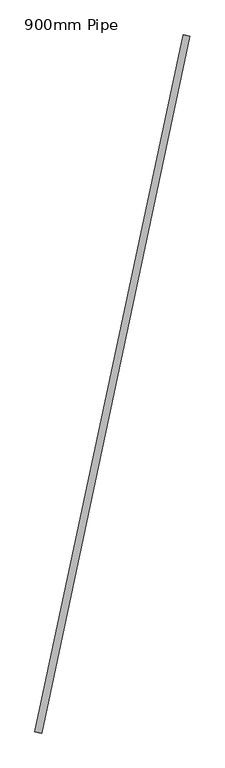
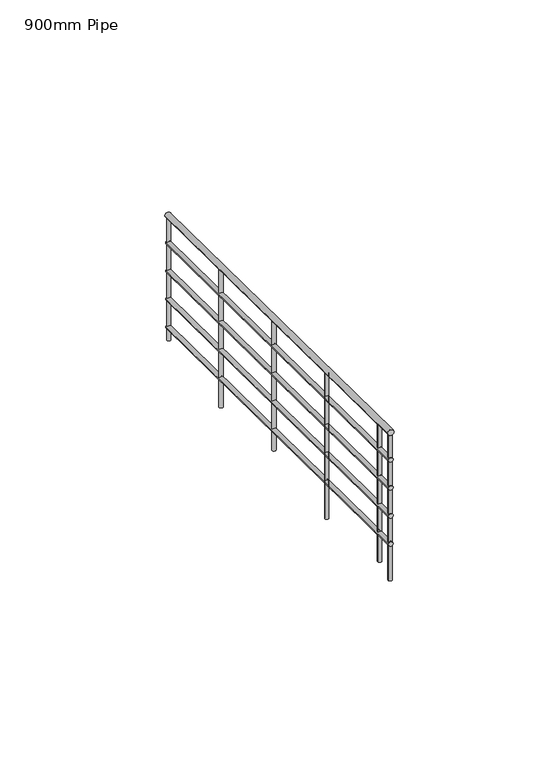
"""IFC4 building model written with IfcOpenShell, lengths in millimetres: railing geometry, 900mm Pipe."""

from ifc_helpers import new_model, si_unit, frame, origin, place, context, project, spatial, circle_curve, ellipse_curve, source, transform, mapped, element, save
from ifc_brep_helpers import plane_surface, cylinder_surface, advanced_brep


def railing_900mm_pipe_92d42454(model_context):
    return source(origin(), model_context, "Body", "AdvancedBrep", [
        advanced_brep(
        [(969290.0041335, 43215.1762571, 6058.4247801), (969250.8806435, 43223.5040741, 6058.4247801), (968413.2612678, 39096.3008532, 7313.4836036), (968374.1377779, 39104.6286702, 7313.4836036)],
        [
            (0, 1, ellipse_curve(frame((969270.4423885, 43219.3401656, 6058.4247801), z_axis=(0.2081954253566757, 0.9780872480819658, 0.0), x_axis=(0.0, 0.0, -1.0)), 20.8693376, 20.0)),
            (1, 0, ellipse_curve(frame((969270.4423885, 43219.3401656, 6058.4247801), z_axis=(0.2081954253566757, 0.9780872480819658, 0.0), x_axis=(0.0, 0.0, -1.0)), 20.8693376, 20.0)),
            (2, 3, ellipse_curve(frame((968393.6995229, 39100.4647617, 7313.4836036), z_axis=(-0.2081954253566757, -0.9780872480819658, 0.0), x_axis=(0.0, 0.0, -1.0)), 20.8693376, 20.0)),
            (3, 2, ellipse_curve(frame((968393.6995229, 39100.4647617, 7313.4836036), z_axis=(-0.2081954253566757, -0.9780872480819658, 0.0), x_axis=(0.0, 0.0, -1.0)), 20.8693376, 20.0)),
            (0, 2),
            (3, 1),
        ],
        [
            plane_surface(frame((969270.4423885, 43219.3401656, 6079.2941176), z_axis=(0.2081954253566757, 0.9780872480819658, 0.0), x_axis=(0.9780872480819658, -0.2081954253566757, 0.0))),
            plane_surface(frame((968393.6995229, 39100.4647617, 7334.3529412), z_axis=(-0.2081954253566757, -0.9780872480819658, 0.0), x_axis=(0.9780872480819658, -0.2081954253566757, 0.0))),
            cylinder_surface(frame((969269.2531046, 43213.7529948, 6060.1272419), z_axis=(0.19952279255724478, 0.937343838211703, -0.285617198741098), x_axis=(-0.9780872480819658, 0.20819542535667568, 0.0)), 20.0),
        ],
        [
            (0, [[1, 2]]),
            (1, [[3, 4]]),
            (2, [[-1, 5, -4, 6]]),
            (2, [[-2, -6, -3, -5]]),
        ],
    ),
        advanced_brep(
        [(969285.1136972, 43216.2172342, 5863.6421145), (969255.7710798, 43222.463097, 5863.6421145), (968408.3708316, 39097.3418303, 7118.700938), (968379.0282142, 39103.5876931, 7118.700938)],
        [
            (0, 1, ellipse_curve(frame((969270.4423885, 43219.3401656, 5863.6421145), z_axis=(0.2081954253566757, 0.9780872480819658, 0.0), x_axis=(0.0, 0.0, -1.0)), 15.6520032, 15.0)),
            (1, 0, ellipse_curve(frame((969270.4423885, 43219.3401656, 5863.6421145), z_axis=(0.2081954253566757, 0.9780872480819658, 0.0), x_axis=(0.0, 0.0, -1.0)), 15.6520032, 15.0)),
            (2, 3, ellipse_curve(frame((968393.6995229, 39100.4647617, 7118.700938), z_axis=(-0.2081954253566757, -0.9780872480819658, 0.0), x_axis=(0.0, 0.0, -1.0)), 15.6520032, 15.0)),
            (3, 2, ellipse_curve(frame((968393.6995229, 39100.4647617, 7118.700938), z_axis=(-0.2081954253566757, -0.9780872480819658, 0.0), x_axis=(0.0, 0.0, -1.0)), 15.6520032, 15.0)),
            (0, 2),
            (3, 1),
        ],
        [
            plane_surface(frame((969270.4423885, 43219.3401656, 5879.2941176), z_axis=(0.2081954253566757, 0.9780872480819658, 0.0), x_axis=(0.9780872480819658, -0.2081954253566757, 0.0))),
            plane_surface(frame((968393.6995229, 39100.4647617, 7134.3529412), z_axis=(-0.2081954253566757, -0.9780872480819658, 0.0), x_axis=(0.9780872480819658, -0.2081954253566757, 0.0))),
            cylinder_surface(frame((969269.5504256, 43215.1497875, 5864.9189608), z_axis=(0.19952279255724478, 0.937343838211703, -0.285617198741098), x_axis=(-0.9780872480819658, 0.20819542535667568, 0.0)), 15.0),
        ],
        [
            (0, [[1, 2]]),
            (1, [[3, 4]]),
            (2, [[-1, 5, -4, 6]]),
            (2, [[-2, -6, -3, -5]]),
        ],
    ),
        advanced_brep(
        [(969285.1136972, 43216.2172342, 5663.6421145), (969255.7710798, 43222.463097, 5663.6421145), (968408.3708316, 39097.3418303, 6918.700938), (968379.0282142, 39103.5876931, 6918.700938)],
        [
            (0, 1, ellipse_curve(frame((969270.4423885, 43219.3401656, 5663.6421145), z_axis=(0.2081954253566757, 0.9780872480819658, 0.0), x_axis=(0.0, 0.0, -1.0)), 15.6520032, 15.0)),
            (1, 0, ellipse_curve(frame((969270.4423885, 43219.3401656, 5663.6421145), z_axis=(0.2081954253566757, 0.9780872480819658, 0.0), x_axis=(0.0, 0.0, -1.0)), 15.6520032, 15.0)),
            (2, 3, ellipse_curve(frame((968393.6995229, 39100.4647617, 6918.700938), z_axis=(-0.2081954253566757, -0.9780872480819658, 0.0), x_axis=(0.0, 0.0, -1.0)), 15.6520032, 15.0)),
            (3, 2, ellipse_curve(frame((968393.6995229, 39100.4647617, 6918.700938), z_axis=(-0.2081954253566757, -0.9780872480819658, 0.0), x_axis=(0.0, 0.0, -1.0)), 15.6520032, 15.0)),
            (0, 2),
            (3, 1),
        ],
        [
            plane_surface(frame((969270.4423885, 43219.3401656, 5679.2941176), z_axis=(0.2081954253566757, 0.9780872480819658, 0.0), x_axis=(0.9780872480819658, -0.2081954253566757, 0.0))),
            plane_surface(frame((968393.6995229, 39100.4647617, 6934.3529412), z_axis=(-0.2081954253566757, -0.9780872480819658, 0.0), x_axis=(0.9780872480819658, -0.2081954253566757, 0.0))),
            cylinder_surface(frame((969269.5504256, 43215.1497875, 5664.9189608), z_axis=(0.19952279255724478, 0.937343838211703, -0.285617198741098), x_axis=(-0.9780872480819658, 0.20819542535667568, 0.0)), 15.0),
        ],
        [
            (0, [[1, 2]]),
            (1, [[3, 4]]),
            (2, [[-1, 5, -4, 6]]),
            (2, [[-2, -6, -3, -5]]),
        ],
    ),
        advanced_brep(
        [(969285.1136972, 43216.2172342, 5463.6421145), (969255.7710798, 43222.463097, 5463.6421145), (968408.3708316, 39097.3418303, 6718.700938), (968379.0282142, 39103.5876931, 6718.700938)],
        [
            (0, 1, ellipse_curve(frame((969270.4423885, 43219.3401656, 5463.6421145), z_axis=(0.2081954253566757, 0.9780872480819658, 0.0), x_axis=(0.0, 0.0, -1.0)), 15.6520032, 15.0)),
            (1, 0, ellipse_curve(frame((969270.4423885, 43219.3401656, 5463.6421145), z_axis=(0.2081954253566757, 0.9780872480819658, 0.0), x_axis=(0.0, 0.0, -1.0)), 15.6520032, 15.0)),
            (2, 3, ellipse_curve(frame((968393.6995229, 39100.4647617, 6718.700938), z_axis=(-0.2081954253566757, -0.9780872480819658, 0.0), x_axis=(0.0, 0.0, -1.0)), 15.6520032, 15.0)),
            (3, 2, ellipse_curve(frame((968393.6995229, 39100.4647617, 6718.700938), z_axis=(-0.2081954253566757, -0.9780872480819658, 0.0), x_axis=(0.0, 0.0, -1.0)), 15.6520032, 15.0)),
            (0, 2),
            (3, 1),
        ],
        [
            plane_surface(frame((969270.4423885, 43219.3401656, 5479.2941176), z_axis=(0.2081954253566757, 0.9780872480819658, 0.0), x_axis=(0.9780872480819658, -0.2081954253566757, 0.0))),
            plane_surface(frame((968393.6995229, 39100.4647617, 6734.3529412), z_axis=(-0.2081954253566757, -0.9780872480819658, 0.0), x_axis=(0.9780872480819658, -0.2081954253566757, 0.0))),
            cylinder_surface(frame((969269.5504256, 43215.1497875, 5464.9189608), z_axis=(0.19952279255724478, 0.937343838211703, -0.285617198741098), x_axis=(-0.9780872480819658, 0.20819542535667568, 0.0)), 15.0),
        ],
        [
            (0, [[1, 2]]),
            (1, [[3, 4]]),
            (2, [[-1, 5, -4, 6]]),
            (2, [[-2, -6, -3, -5]]),
        ],
    ),
        advanced_brep(
        [(969285.1136972, 43216.2172342, 5263.6421145), (969255.7710798, 43222.463097, 5263.6421145), (968408.3708316, 39097.3418303, 6518.700938), (968379.0282142, 39103.5876931, 6518.700938)],
        [
            (0, 1, ellipse_curve(frame((969270.4423885, 43219.3401656, 5263.6421145), z_axis=(0.2081954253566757, 0.9780872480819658, 0.0), x_axis=(0.0, 0.0, -1.0)), 15.6520032, 15.0)),
            (1, 0, ellipse_curve(frame((969270.4423885, 43219.3401656, 5263.6421145), z_axis=(0.2081954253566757, 0.9780872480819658, 0.0), x_axis=(0.0, 0.0, -1.0)), 15.6520032, 15.0)),
            (2, 3, ellipse_curve(frame((968393.6995229, 39100.4647617, 6518.700938), z_axis=(-0.2081954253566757, -0.9780872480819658, 0.0), x_axis=(0.0, 0.0, -1.0)), 15.6520032, 15.0)),
            (3, 2, ellipse_curve(frame((968393.6995229, 39100.4647617, 6518.700938), z_axis=(-0.2081954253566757, -0.9780872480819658, 0.0), x_axis=(0.0, 0.0, -1.0)), 15.6520032, 15.0)),
            (0, 2),
            (3, 1),
        ],
        [
            plane_surface(frame((969270.4423885, 43219.3401656, 5279.2941176), z_axis=(0.2081954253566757, 0.9780872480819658, 0.0), x_axis=(0.9780872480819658, -0.2081954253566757, 0.0))),
            plane_surface(frame((968393.6995229, 39100.4647617, 6534.3529412), z_axis=(-0.2081954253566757, -0.9780872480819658, 0.0), x_axis=(0.9780872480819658, -0.2081954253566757, 0.0))),
            cylinder_surface(frame((969269.5504256, 43215.1497875, 5264.9189608), z_axis=(0.19952279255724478, 0.937343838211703, -0.285617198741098), x_axis=(-0.9780872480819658, 0.20819542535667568, 0.0)), 15.0),
        ],
        [
            (0, [[1, 2]]),
            (1, [[3, 4]]),
            (2, [[-1, 5, -4, 6]]),
            (2, [[-2, -6, -3, -5]]),
        ],
    ),
        advanced_brep(
        [(968425.4345965, 39309.5936161, 7229.6837888), (968425.4345965, 39309.5936161, 6255.0588235), (968449.8867777, 39304.3887305, 6255.0588235), (968449.8867777, 39304.3887305, 7229.6837888)],
        [
            (0, 1),
            (1, 2, circle_curve(frame((968437.6606871, 39306.9911733, 6255.0588235), z_axis=(0.0, 0.0, 1.0), x_axis=(0.9780872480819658, -0.20819542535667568, 0.0)), 12.5)),
            (2, 3),
            (3, 0, ellipse_curve(frame((968437.6606871, 39306.9911733, 7229.6837888), z_axis=(-0.059464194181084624, -0.27935853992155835, -0.9583437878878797), x_axis=(-0.1995227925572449, -0.9373438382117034, 0.2856171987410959)), 13.043336, 12.5)),
            (0, 3, ellipse_curve(frame((968437.6606871, 39306.9911733, 7229.6837888), z_axis=(-0.059464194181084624, -0.27935853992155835, -0.9583437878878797), x_axis=(-0.1995227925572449, -0.9373438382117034, 0.2856171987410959)), 13.043336, 12.5)),
            (2, 1, circle_curve(frame((968437.6606871, 39306.9911733, 6255.0588235), z_axis=(0.0, 0.0, 1.0), x_axis=(0.9780872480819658, -0.20819542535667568, 0.0)), 12.5)),
        ],
        [
            cylinder_surface(frame((968437.6606871, 39306.9911733, 6155.0588235), z_axis=(0.0, 0.0, 1.0), x_axis=(0.9780872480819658, -0.20819542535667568, 0.0)), 12.5),
            plane_surface(frame((968456.9079826, 39277.3341064, 7237.1345909), z_axis=(0.059464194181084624, 0.27935853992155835, 0.9583437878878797), x_axis=(-0.9780872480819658, 0.20819542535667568, 0.0))),
            plane_surface(frame((968467.3177539, 39326.2384688, 6255.0588235), z_axis=(0.0, 0.0, -1.0), x_axis=(-0.9780872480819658, 0.20819542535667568, 0.0))),
        ],
        [
            (0, [[1, 2, 3, 4]]),
            (0, [[-1, 5, -3, 6]]),
            (1, [[-4, -5]]),
            (2, [[-2, -6]]),
        ],
    ),
        advanced_brep(
        [(968633.6300218, 40287.6808642, 6931.6517022), (968633.6300218, 40287.6808642, 5896.4705882), (968658.082203, 40282.4759785, 5896.4705882), (968658.082203, 40282.4759785, 6931.6517022)],
        [
            (0, 1),
            (1, 2, circle_curve(frame((968645.8561124, 40285.0784214, 5896.4705882), z_axis=(0.0, 0.0, 1.0), x_axis=(0.9780872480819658, -0.20819542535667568, 0.0)), 12.5)),
            (2, 3),
            (3, 0, ellipse_curve(frame((968645.8561124, 40285.0784214, 6931.6517022), z_axis=(-0.059464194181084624, -0.27935853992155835, -0.9583437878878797), x_axis=(-0.1995227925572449, -0.9373438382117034, 0.2856171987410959)), 13.043336, 12.5)),
            (0, 3, ellipse_curve(frame((968645.8561124, 40285.0784214, 6931.6517022), z_axis=(-0.059464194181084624, -0.27935853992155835, -0.9583437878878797), x_axis=(-0.1995227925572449, -0.9373438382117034, 0.2856171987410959)), 13.043336, 12.5)),
            (2, 1, circle_curve(frame((968645.8561124, 40285.0784214, 5896.4705882), z_axis=(0.0, 0.0, 1.0), x_axis=(0.9780872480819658, -0.20819542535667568, 0.0)), 12.5)),
        ],
        [
            cylinder_surface(frame((968645.8561124, 40285.0784214, 5796.4705882), z_axis=(0.0, 0.0, 1.0), x_axis=(0.9780872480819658, -0.20819542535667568, 0.0)), 12.5),
            plane_surface(frame((968665.103408, 40255.4213545, 6939.1025044), z_axis=(0.059464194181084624, 0.27935853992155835, 0.9583437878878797), x_axis=(-0.9780872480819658, 0.20819542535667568, 0.0))),
            plane_surface(frame((968675.5131793, 40304.3257169, 5896.4705882), z_axis=(0.0, 0.0, -1.0), x_axis=(-0.9780872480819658, 0.20819542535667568, 0.0))),
        ],
        [
            (0, [[1, 2, 3, 4]]),
            (0, [[-1, 5, -3, 6]]),
            (1, [[-4, -5]]),
            (2, [[-2, -6]]),
        ],
    ),
        advanced_brep(
        [(968841.8254472, 41265.7681123, 6633.6196157), (968841.8254472, 41265.7681123, 5717.1764706), (968866.2776284, 41260.5632266, 5717.1764706), (968866.2776284, 41260.5632266, 6633.6196157)],
        [
            (0, 1),
            (1, 2, circle_curve(frame((968854.0515378, 41263.1656694, 5717.1764706), z_axis=(0.0, 0.0, 1.0), x_axis=(0.9780872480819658, -0.20819542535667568, 0.0)), 12.5)),
            (2, 3),
            (3, 0, ellipse_curve(frame((968854.0515378, 41263.1656694, 6633.6196157), z_axis=(-0.059464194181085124, -0.2793585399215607, -0.9583437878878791), x_axis=(-0.19952279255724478, -0.937343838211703, 0.2856171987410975)), 13.043336, 12.5)),
            (0, 3, ellipse_curve(frame((968854.0515378, 41263.1656694, 6633.6196157), z_axis=(-0.059464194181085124, -0.2793585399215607, -0.9583437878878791), x_axis=(-0.19952279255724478, -0.937343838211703, 0.2856171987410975)), 13.043336, 12.5)),
            (2, 1, circle_curve(frame((968854.0515378, 41263.1656694, 5717.1764706), z_axis=(0.0, 0.0, 1.0), x_axis=(0.9780872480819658, -0.20819542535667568, 0.0)), 12.5)),
        ],
        [
            cylinder_surface(frame((968854.0515378, 41263.1656694, 5617.1764706), z_axis=(0.0, 0.0, 1.0), x_axis=(0.9780872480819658, -0.20819542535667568, 0.0)), 12.5),
            plane_surface(frame((968873.2988333, 41233.5086026, 6641.0704178), z_axis=(0.059464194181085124, 0.2793585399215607, 0.9583437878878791), x_axis=(-0.9780872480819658, 0.20819542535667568, 0.0))),
            plane_surface(frame((968883.7086046, 41282.412965, 5717.1764706), z_axis=(0.0, 0.0, -1.0), x_axis=(-0.9780872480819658, 0.20819542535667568, 0.0))),
        ],
        [
            (0, [[1, 2, 3, 4]]),
            (0, [[-1, 5, -3, 6]]),
            (1, [[-4, -5]]),
            (2, [[-2, -6]]),
        ],
    ),
        advanced_brep(
        [(969050.0208725, 42243.8553603, 6335.5875291), (969050.0208725, 42243.8553603, 5358.5882353), (969074.4730537, 42238.6504747, 5358.5882353), (969074.4730537, 42238.6504747, 6335.5875291)],
        [
            (0, 1),
            (1, 2, circle_curve(frame((969062.2469631, 42241.2529175, 5358.5882353), z_axis=(0.0, 0.0, 1.0), x_axis=(0.9780872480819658, -0.20819542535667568, 0.0)), 12.5)),
            (2, 3),
            (3, 0, ellipse_curve(frame((969062.2469631, 42241.2529175, 6335.5875291), z_axis=(-0.059464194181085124, -0.2793585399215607, -0.9583437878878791), x_axis=(-0.19952279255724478, -0.937343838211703, 0.2856171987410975)), 13.043336, 12.5)),
            (0, 3, ellipse_curve(frame((969062.2469631, 42241.2529175, 6335.5875291), z_axis=(-0.059464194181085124, -0.2793585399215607, -0.9583437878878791), x_axis=(-0.19952279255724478, -0.937343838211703, 0.2856171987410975)), 13.043336, 12.5)),
            (2, 1, circle_curve(frame((969062.2469631, 42241.2529175, 5358.5882353), z_axis=(0.0, 0.0, 1.0), x_axis=(0.9780872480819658, -0.20819542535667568, 0.0)), 12.5)),
        ],
        [
            cylinder_surface(frame((969062.2469631, 42241.2529175, 5258.5882353), z_axis=(0.0, 0.0, 1.0), x_axis=(0.9780872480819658, -0.20819542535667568, 0.0)), 12.5),
            plane_surface(frame((969081.4942587, 42211.5958507, 6343.0383313), z_axis=(0.059464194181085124, 0.2793585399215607, 0.9583437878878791), x_axis=(-0.9780872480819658, 0.20819542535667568, 0.0))),
            plane_surface(frame((969091.90403, 42260.5002131, 5358.5882353), z_axis=(0.0, 0.0, -1.0), x_axis=(-0.9780872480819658, 0.20819542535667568, 0.0))),
        ],
        [
            (0, [[1, 2, 3, 4]]),
            (0, [[-1, 5, -3, 6]]),
            (1, [[-4, -5]]),
            (2, [[-2, -6]]),
        ],
    ),
        advanced_brep(
        [(968384.0758751, 39115.2932951, 7288.888865), (968384.0758751, 39115.2932951, 6255.0588235), (968408.5280563, 39110.0884095, 6255.0588235), (968408.5280563, 39110.0884095, 7288.888865)],
        [
            (0, 1),
            (1, 2, circle_curve(frame((968396.3019657, 39112.6908523, 6255.0588235), z_axis=(0.0, 0.0, 1.0), x_axis=(0.9780872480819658, -0.20819542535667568, 0.0)), 12.5)),
            (2, 3),
            (3, 0, ellipse_curve(frame((968396.3019657, 39112.6908523, 7288.888865), z_axis=(-0.059464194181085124, -0.2793585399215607, -0.9583437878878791), x_axis=(-0.19952279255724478, -0.937343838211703, 0.2856171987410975)), 13.043336, 12.5)),
            (0, 3, ellipse_curve(frame((968396.3019657, 39112.6908523, 7288.888865), z_axis=(-0.059464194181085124, -0.2793585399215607, -0.9583437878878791), x_axis=(-0.19952279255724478, -0.937343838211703, 0.2856171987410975)), 13.043336, 12.5)),
            (2, 1, circle_curve(frame((968396.3019657, 39112.6908523, 6255.0588235), z_axis=(0.0, 0.0, 1.0), x_axis=(0.9780872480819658, -0.20819542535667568, 0.0)), 12.5)),
        ],
        [
            cylinder_surface(frame((968396.3019657, 39112.6908523, 6155.0588235), z_axis=(0.0, 0.0, 1.0), x_axis=(0.9780872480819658, -0.20819542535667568, 0.0)), 12.5),
            plane_surface(frame((968415.5492613, 39083.0337855, 7296.3396672), z_axis=(0.059464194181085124, 0.2793585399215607, 0.9583437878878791), x_axis=(-0.9780872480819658, 0.20819542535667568, 0.0))),
            plane_surface(frame((968425.9590325, 39131.9381479, 6255.0588235), z_axis=(0.0, 0.0, -1.0), x_axis=(-0.9780872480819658, 0.20819542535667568, 0.0))),
        ],
        [
            (0, [[1, 2, 3, 4]]),
            (0, [[-1, 5, -3, 6]]),
            (1, [[-4, -5]]),
            (2, [[-2, -6]]),
        ],
    ),
        advanced_brep(
        [(969255.6138551, 43209.7165178, 6041.2808436), (969255.6138551, 43209.7165178, 5179.2941176), (969280.0660363, 43204.5116322, 5179.2941176), (969280.0660363, 43204.5116322, 6041.2808436)],
        [
            (0, 1),
            (1, 2, circle_curve(frame((969267.8399457, 43207.114075, 5179.2941176), z_axis=(0.0, 0.0, 1.0), x_axis=(0.9780872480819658, -0.20819542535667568, 0.0)), 12.5)),
            (2, 3),
            (3, 0, ellipse_curve(frame((969267.8399457, 43207.114075, 6041.2808436), z_axis=(-0.059464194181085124, -0.2793585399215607, -0.9583437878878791), x_axis=(-0.19952279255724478, -0.937343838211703, 0.2856171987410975)), 13.043336, 12.5)),
            (0, 3, ellipse_curve(frame((969267.8399457, 43207.114075, 6041.2808436), z_axis=(-0.059464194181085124, -0.2793585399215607, -0.9583437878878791), x_axis=(-0.19952279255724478, -0.937343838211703, 0.2856171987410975)), 13.043336, 12.5)),
            (2, 1, circle_curve(frame((969267.8399457, 43207.114075, 5179.2941176), z_axis=(0.0, 0.0, 1.0), x_axis=(0.9780872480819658, -0.20819542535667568, 0.0)), 12.5)),
        ],
        [
            cylinder_surface(frame((969267.8399457, 43207.114075, 5079.2941176), z_axis=(0.0, 0.0, 1.0), x_axis=(0.9780872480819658, -0.20819542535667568, 0.0)), 12.5),
            plane_surface(frame((969287.0872412, 43177.4570082, 6048.7316458), z_axis=(0.059464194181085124, 0.2793585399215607, 0.9583437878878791), x_axis=(-0.9780872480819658, 0.20819542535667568, 0.0))),
            plane_surface(frame((969297.4970125, 43226.3613706, 5179.2941176), z_axis=(0.0, 0.0, -1.0), x_axis=(-0.9780872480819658, 0.20819542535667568, 0.0))),
        ],
        [
            (0, [[1, 2, 3, 4]]),
            (0, [[-1, 5, -3, 6]]),
            (1, [[-4, -5]]),
            (2, [[-2, -6]]),
        ],
    ),
    ])


if __name__ == "__main__":
    model = new_model("IFC4")
    model_context = context("Model", 3, world=origin())
    ifc_project = project(units=[si_unit("LENGTHUNIT", "METRE", prefix="MILLI")], contexts=[model_context])
    site = spatial("IfcSite", under=ifc_project)
    building = spatial("IfcBuilding", under=site)
    placement = place(None, origin())
    railing_900mm_pipe_shape = railing_900mm_pipe_92d42454(model_context)
    element("IfcRailing", 1, ObjectType="900mm Pipe", at=placement, inside=building, context=model_context, shape_type="MappedRepresentation", body=[
        mapped(railing_900mm_pipe_shape, transform((0.0, 0.0, 0.0), x_axis=(1.0, 0.0, 0.0), y_axis=(0.0, 1.0, 0.0), z_axis=(0.0, 0.0, 1.0))),
    ])
    save(model, "model.ifc")
